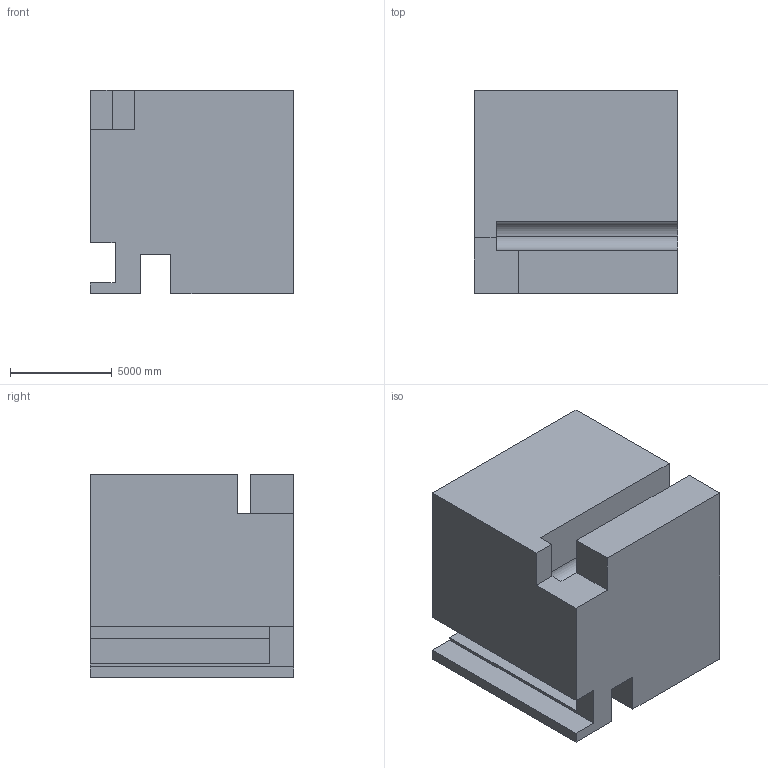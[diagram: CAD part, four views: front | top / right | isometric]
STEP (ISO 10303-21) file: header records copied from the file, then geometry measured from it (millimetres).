
FILE_DESCRIPTION (( 'STEP AP203' ), '1' );
FILE_NAME ('555.STEP', '2022-07-29T11:48:01', ( 'user' ), ( '' ), 'SwSTEP 2.0', 'SolidWorks 2021', '' );
FILE_SCHEMA (( 'CONFIG_CONTROL_DESIGN' ));
Length unit declared in the file: centimetre
Products named in the file (1): 555
Bounding box: 10000 x 10000 x 10000 mm (x, y, z)
Volume: 848036437579.1 mm3; surface area: 732081472.1 mm2
Topology: 1 solids, 1 shells, 33 faces, 93 edges, 62 vertices
Faces by surface type: plane 30, cylinder 3
Entity records: 1130 total; most frequent: CARTESIAN_POINT 189, ORIENTED_EDGE 186, DIRECTION 167, EDGE_CURVE 93, VECTOR 87, LINE 87, VERTEX_POINT 62, AXIS2_PLACEMENT_3D 40
